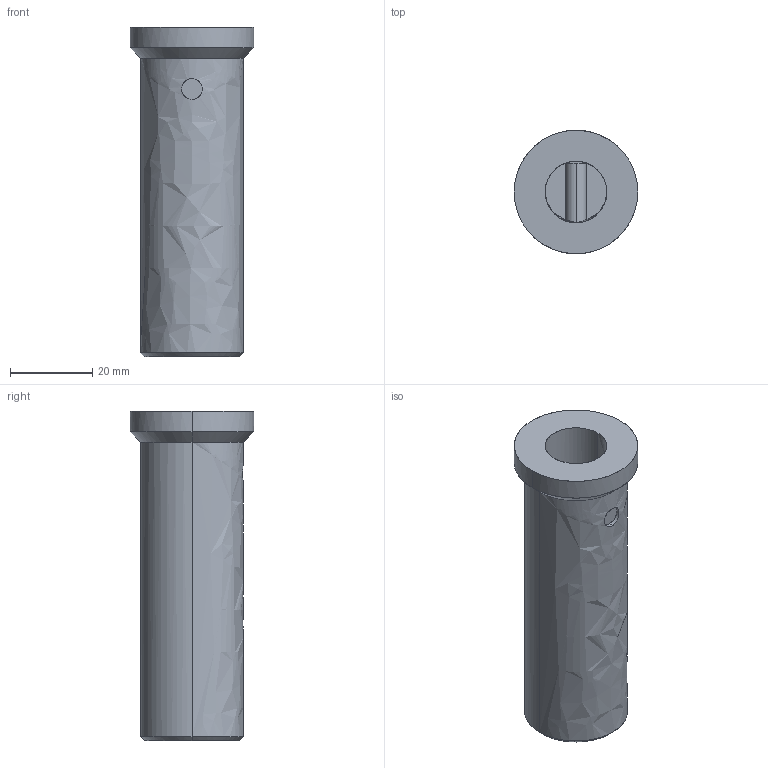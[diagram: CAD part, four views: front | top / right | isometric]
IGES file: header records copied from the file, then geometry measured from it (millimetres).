
Global section: file name: E:\UnigraphicsGraphicData\MISUMI_PRESS-PARTS\IGES\3d_lcup25-80_01344_r00.igs; native system: NX V5.0; preprocessor: UGS NX IGES V5.0; author: MISUMI; date: 20110105.161156; units: millimetre
Bounding box: 30 x 30 x 80 mm (x, y, z)
Surface area: 9406.6 mm2 (no closed solid volume)
Topology: 0 solids, 0 shells, 19 faces, 140 edges, 140 vertices
Faces by surface type: bspline 19
